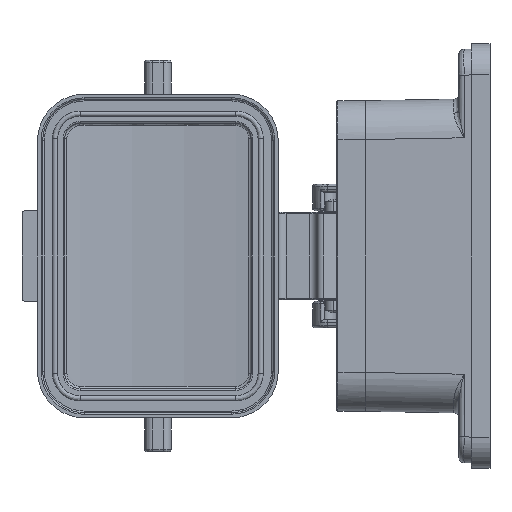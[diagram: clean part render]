
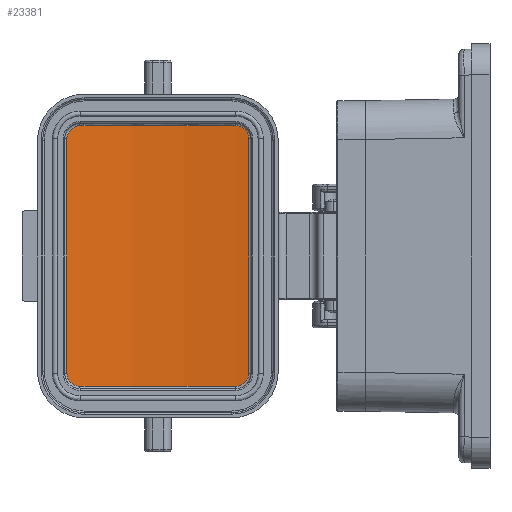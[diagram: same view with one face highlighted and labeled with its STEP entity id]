
A CAD part, left-side view. The second image highlights one B-rep face of the part: STEP entity #23381.
In plain terms, the highlighted cylindrical face has radius 123 mm (diameter 246 mm), a partial arc.
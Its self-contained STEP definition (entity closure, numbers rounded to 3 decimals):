
#1610 = CIRCLE ( 'NONE', #138350, 123. ) ;
#3874 = LINE ( 'NONE', #35731, #144820 ) ;
#5356 = EDGE_CURVE ( 'NONE', #102803, #22899, #35519, .T. ) ;
#6177 = CARTESIAN_POINT ( 'NONE',  ( -25.088, 14.793, -15.71 ) ) ;
#7150 = CARTESIAN_POINT ( 'NONE',  ( 24.657, 14.676, 16.594 ) ) ;
#8158 = DIRECTION ( 'NONE',  ( 1., 0., 0. ) ) ;
#9337 = CARTESIAN_POINT ( 'NONE',  ( 22.65, 14.538, -17.571 ) ) ;
#10375 = CARTESIAN_POINT ( 'NONE',  ( 24.656, 14.676, -16.596 ) ) ;
#13960 = CARTESIAN_POINT ( 'NONE',  ( -25.15, 14.874, -15.061 ) ) ;
#14351 = CARTESIAN_POINT ( 'NONE',  ( -23.305, 14.548, 17.507 ) ) ;
#14627 = VERTEX_POINT ( 'NONE', #9337 ) ;
#21292 = EDGE_CURVE ( 'NONE', #14627, #84623, #100169, .T. ) ;
#22899 = VERTEX_POINT ( 'NONE', #137159 ) ;
#23381 = ADVANCED_FACE ( 'NONE', ( #127919 ), #140981, .F. ) ;
#23609 = CARTESIAN_POINT ( 'NONE',  ( 25.15, 14.874, 15.061 ) ) ;
#23791 = DIRECTION ( 'NONE',  ( -1., 0., 0. ) ) ;
#25110 = DIRECTION ( 'NONE',  ( 0., 0.992, -0.124 ) ) ;
#26792 = CARTESIAN_POINT ( 'NONE',  ( -22.65, 14.538, 17.571 ) ) ;
#28292 = EDGE_CURVE ( 'NONE', #134533, #131926, #1610, .T. ) ;
#30006 = DIRECTION ( 'NONE',  ( 0., 0.992, 0.124 ) ) ;
#32595 = ORIENTED_EDGE ( 'NONE', *, *, #28292, .T. ) ;
#35519 = B_SPLINE_CURVE_WITH_KNOTS ( 'NONE', 3,
 ( #78124, #53305, #148066, #124780, #7150, #135649, #101984, #42915, #69316, #116945 ),
 .UNSPECIFIED., .F., .F.,
 ( 4, 2, 2, 2, 4 ),
 ( 0., 0.25, 0.5, 0.75, 1. ),
 .UNSPECIFIED. ) ;
#35731 = CARTESIAN_POINT ( 'NONE',  ( 22.808, 14.538, 17.571 ) ) ;
#37717 = CARTESIAN_POINT ( 'NONE',  ( -25.15, 14.874, 15.061 ) ) ;
#38717 = CARTESIAN_POINT ( 'NONE',  ( -24.836, 14.713, 16.323 ) ) ;
#39219 = CARTESIAN_POINT ( 'NONE',  ( -24.656, 14.676, 16.596 ) ) ;
#42915 = CARTESIAN_POINT ( 'NONE',  ( 23.304, 14.548, 17.507 ) ) ;
#43760 = EDGE_CURVE ( 'NONE', #22899, #65132, #3874, .T. ) ;
#45513 = ORIENTED_EDGE ( 'NONE', *, *, #140593, .T. ) ;
#46975 = LINE ( 'NONE', #143420, #143272 ) ;
#49610 = CARTESIAN_POINT ( 'NONE',  ( -25.15, 14.833, 15.393 ) ) ;
#51280 = DIRECTION ( 'NONE',  ( -1., 0., 0. ) ) ;
#53239 = CARTESIAN_POINT ( 'NONE',  ( -25.15, 14.874, 15.061 ) ) ;
#53305 = CARTESIAN_POINT ( 'NONE',  ( 25.15, 14.833, 15.393 ) ) ;
#53351 = CARTESIAN_POINT ( 'NONE',  ( -22.984, 14.538, -17.571 ) ) ;
#55884 = B_SPLINE_CURVE_WITH_KNOTS ( 'NONE', 3,
 ( #26792, #85796, #14351, #122096, #98281, #39219, #38717, #145885, #49610, #37717 ),
 .UNSPECIFIED., .F., .F.,
 ( 4, 2, 2, 2, 4 ),
 ( 0., 0.25, 0.5, 0.75, 1. ),
 .UNSPECIFIED. ) ;
#56819 = VERTEX_POINT ( 'NONE', #114514 ) ;
#57845 = EDGE_CURVE ( 'NONE', #56819, #14627, #46975, .T. ) ;
#58600 = CARTESIAN_POINT ( 'NONE',  ( 23.305, 14.548, -17.507 ) ) ;
#58630 = ORIENTED_EDGE ( 'NONE', *, *, #5356, .T. ) ;
#60369 = DIRECTION ( 'NONE',  ( 1., 0., 0. ) ) ;
#61190 = B_SPLINE_CURVE_WITH_KNOTS ( 'NONE', 3,
 ( #13960, #108758, #6177, #123294, #120179, #89059, #135697, #64763, #53351, #101031 ),
 .UNSPECIFIED., .F., .F.,
 ( 4, 2, 2, 2, 4 ),
 ( 0., 0.25, 0.5, 0.75, 1. ),
 .UNSPECIFIED. ) ;
#61491 = CARTESIAN_POINT ( 'NONE',  ( 25.15, 14.874, -15.061 ) ) ;
#64763 = CARTESIAN_POINT ( 'NONE',  ( -23.304, 14.548, -17.507 ) ) ;
#65132 = VERTEX_POINT ( 'NONE', #82562 ) ;
#68446 = CARTESIAN_POINT ( 'NONE',  ( 25.15, 14.874, -15.061 ) ) ;
#69316 = CARTESIAN_POINT ( 'NONE',  ( 22.984, 14.538, 17.571 ) ) ;
#69489 = CARTESIAN_POINT ( 'NONE',  ( 25.15, 14.833, -15.393 ) ) ;
#70524 = CARTESIAN_POINT ( 'NONE',  ( 24.19, 14.61, -17.067 ) ) ;
#71740 = EDGE_CURVE ( 'NONE', #65132, #134533, #55884, .T. ) ;
#78124 = CARTESIAN_POINT ( 'NONE',  ( 25.15, 14.874, 15.061 ) ) ;
#79983 = EDGE_CURVE ( 'NONE', #84623, #102803, #119483, .T. ) ;
#80507 = AXIS2_PLACEMENT_3D ( 'NONE', #131326, #60369, #25110 ) ;
#82562 = CARTESIAN_POINT ( 'NONE',  ( -22.65, 14.538, 17.571 ) ) ;
#84623 = VERTEX_POINT ( 'NONE', #61491 ) ;
#85796 = CARTESIAN_POINT ( 'NONE',  ( -22.984, 14.538, 17.571 ) ) ;
#87503 = AXIS2_PLACEMENT_3D ( 'NONE', #151596, #8158, #115415 ) ;
#89059 = CARTESIAN_POINT ( 'NONE',  ( -24.188, 14.61, -17.068 ) ) ;
#94274 = DIRECTION ( 'NONE',  ( 1., 0., 0. ) ) ;
#98281 = CARTESIAN_POINT ( 'NONE',  ( -24.19, 14.61, 17.067 ) ) ;
#98556 = CARTESIAN_POINT ( 'NONE',  ( -25.15, 14.874, -15.061 ) ) ;
#99603 = ORIENTED_EDGE ( 'NONE', *, *, #43760, .T. ) ;
#100169 = B_SPLINE_CURVE_WITH_KNOTS ( 'NONE', 3,
 ( #116093, #103680, #58600, #141444, #70524, #10375, #127513, #117117, #69489, #68446 ),
 .UNSPECIFIED., .F., .F.,
 ( 4, 2, 2, 2, 4 ),
 ( 0., 0.25, 0.5, 0.75, 1. ),
 .UNSPECIFIED. ) ;
#101031 = CARTESIAN_POINT ( 'NONE',  ( -22.65, 14.538, -17.571 ) ) ;
#101309 = ORIENTED_EDGE ( 'NONE', *, *, #79983, .T. ) ;
#101984 = CARTESIAN_POINT ( 'NONE',  ( 23.919, 14.584, 17.25 ) ) ;
#102803 = VERTEX_POINT ( 'NONE', #23609 ) ;
#103680 = CARTESIAN_POINT ( 'NONE',  ( 22.984, 14.538, -17.571 ) ) ;
#108758 = CARTESIAN_POINT ( 'NONE',  ( -25.15, 14.833, -15.393 ) ) ;
#114514 = CARTESIAN_POINT ( 'NONE',  ( -22.65, 14.538, -17.571 ) ) ;
#115415 = DIRECTION ( 'NONE',  ( 0., 0., -1. ) ) ;
#116093 = CARTESIAN_POINT ( 'NONE',  ( 22.65, 14.538, -17.571 ) ) ;
#116945 = CARTESIAN_POINT ( 'NONE',  ( 22.65, 14.538, 17.571 ) ) ;
#117117 = CARTESIAN_POINT ( 'NONE',  ( 25.087, 14.793, -15.712 ) ) ;
#119483 = CIRCLE ( 'NONE', #80507, 123. ) ;
#120098 = ORIENTED_EDGE ( 'NONE', *, *, #57845, .T. ) ;
#120179 = CARTESIAN_POINT ( 'NONE',  ( -24.657, 14.676, -16.594 ) ) ;
#120704 = ORIENTED_EDGE ( 'NONE', *, *, #71740, .T. ) ;
#122096 = CARTESIAN_POINT ( 'NONE',  ( -23.918, 14.584, 17.25 ) ) ;
#122242 = CARTESIAN_POINT ( 'NONE',  ( -25.15, -107.2, 0. ) ) ;
#123294 = CARTESIAN_POINT ( 'NONE',  ( -24.836, 14.712, -16.324 ) ) ;
#124780 = CARTESIAN_POINT ( 'NONE',  ( 24.836, 14.712, 16.324 ) ) ;
#127513 = CARTESIAN_POINT ( 'NONE',  ( 24.836, 14.713, -16.323 ) ) ;
#127919 = FACE_OUTER_BOUND ( 'NONE', #152803, .T. ) ;
#131326 = CARTESIAN_POINT ( 'NONE',  ( 25.15, -107.2, 0. ) ) ;
#131926 = VERTEX_POINT ( 'NONE', #98556 ) ;
#134533 = VERTEX_POINT ( 'NONE', #53239 ) ;
#135649 = CARTESIAN_POINT ( 'NONE',  ( 24.188, 14.61, 17.068 ) ) ;
#135697 = CARTESIAN_POINT ( 'NONE',  ( -23.919, 14.584, -17.25 ) ) ;
#137159 = CARTESIAN_POINT ( 'NONE',  ( 22.65, 14.538, 17.571 ) ) ;
#138350 = AXIS2_PLACEMENT_3D ( 'NONE', #122242, #51280, #30006 ) ;
#140593 = EDGE_CURVE ( 'NONE', #131926, #56819, #61190, .T. ) ;
#140981 = CYLINDRICAL_SURFACE ( 'NONE', #87503, 123. ) ;
#141444 = CARTESIAN_POINT ( 'NONE',  ( 23.918, 14.584, -17.25 ) ) ;
#143272 = VECTOR ( 'NONE', #94274, 1000. ) ;
#143420 = CARTESIAN_POINT ( 'NONE',  ( -22.802, 14.538, -17.571 ) ) ;
#144820 = VECTOR ( 'NONE', #23791, 1000. ) ;
#145885 = CARTESIAN_POINT ( 'NONE',  ( -25.087, 14.793, 15.712 ) ) ;
#148066 = CARTESIAN_POINT ( 'NONE',  ( 25.088, 14.793, 15.71 ) ) ;
#149119 = ORIENTED_EDGE ( 'NONE', *, *, #21292, .T. ) ;
#151596 = CARTESIAN_POINT ( 'NONE',  ( 25.65, -107.2, 0. ) ) ;
#152803 = EDGE_LOOP ( 'NONE', ( #45513, #120098, #149119, #101309, #58630, #99603, #120704, #32595 ) ) ;
